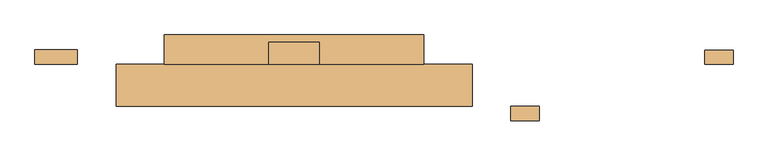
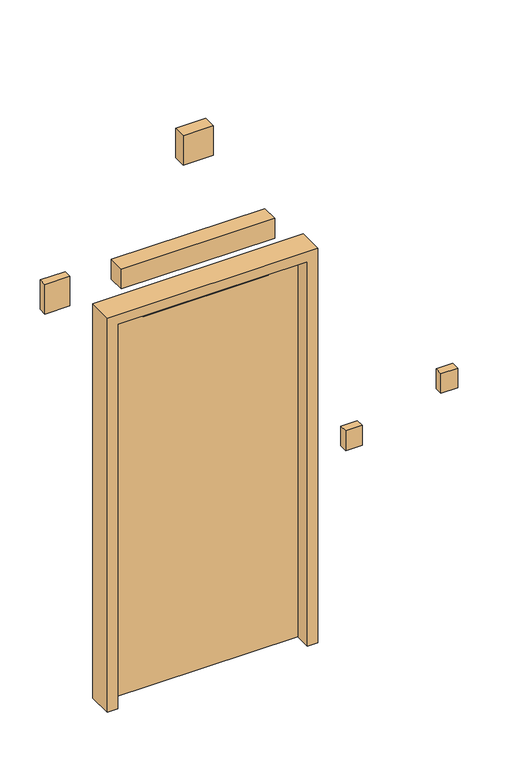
"""IFC4 building model written with IfcOpenShell, lengths in millimetres: door geometry, LOC_Enkeldörr : LOC_Enkeldörr."""

from ifc_helpers import new_model, si_unit, frame, origin, origin_with_axes, place, context, project, spatial, polyline, outline, extrude, source, transform, mapped, element, save


def door_a1db4724(model_context):
    return source(origin(), model_context, "Body", "SweptSolid", [
        extrude(outline(polyline([(300.0, -3.9461432), (-300.0, -3.9461432), (-300.0, 20.0), (300.0, 20.0), (300.0, -3.9461432)])), frame((0.0, 0.0, 1900.0), z_axis=(0.0, 0.0, 1.0), x_axis=(1.0, 0.0, 0.0)), (0.0, 0.0, 1.0), 30.0),
        extrude(outline(polyline([(300.0, 60.0), (-300.0, 60.0), (-300.0, 84.7279155), (300.0, 84.7279155), (300.0, 60.0)])), frame((0.0, 0.0, 1900.0), z_axis=(0.0, 0.0, 1.0), x_axis=(1.0, 0.0, 0.0)), (0.0, 0.0, 1.0), 30.0),
        extrude(outline(polyline([(455.0, 60.0), (455.0, 20.0), (-455.0, 20.0), (-455.0, 60.0), (455.0, 60.0)])), origin_with_axes(), (0.0, 0.0, 1.0), 1950.0),
        extrude(outline(polyline([(71.850514, 60.0), (-71.850514, 60.0), (-71.850514, 122.5679407), (71.850514, 122.5679407), (71.850514, 60.0)])), frame((0.0, 0.0, 2550.0), z_axis=(0.0, 0.0, 1.0), x_axis=(1.0, 0.0, 0.0)), (0.0, 0.0, 1.0), 150.0),
        extrude(outline(polyline([(-615.0, 60.0), (-735.0, 60.0), (-735.0, 100.0), (-615.0, 100.0), (-615.0, 60.0)])), frame((0.0, 0.0, 2026.8339397), z_axis=(0.0, 0.0, 1.0), x_axis=(1.0, 0.0, 0.0)), (0.0, 0.0, 1.0), 150.0),
        extrude(outline(polyline([(695.0, -100.0), (615.0, -100.0), (615.0, -60.0), (695.0, -60.0), (695.0, -100.0)])), frame((0.0, 0.0, 960.0040929), z_axis=(0.0, 0.0, 1.0), x_axis=(1.0, 0.0, 0.0)), (0.0, 0.0, 1.0), 100.0),
        extrude(outline(polyline([(367.845119, 60.0), (-367.845119, 60.0), (-367.845119, 142.679811), (367.845119, 142.679811), (367.845119, 60.0)])), frame((0.0, 0.0, 2026.8339397), z_axis=(0.0, 0.0, 1.0), x_axis=(1.0, 0.0, 0.0)), (0.0, 0.0, 1.0), 100.0),
        extrude(outline(polyline([(1245.0, 60.0), (1165.0, 60.0), (1165.0, 99.7931161), (1245.0, 99.7931161), (1245.0, 60.0)])), frame((0.0, 0.0, 960.0040929), z_axis=(0.0, 0.0, 1.0), x_axis=(1.0, 0.0, 0.0)), (0.0, 0.0, 1.0), 100.0),
        extrude(outline(polyline([(2000.0, 505.0), (2000.0, -505.0), (0.0, -505.0), (0.0, -455.0), (1950.0, -455.0), (1950.0, 455.0), (0.0, 455.0), (0.0, 505.0), (2000.0, 505.0)])), frame((0.0, -60.0, 0.0), z_axis=(0.0, 1.0, 0.0), x_axis=(0.0, 0.0, 1.0)), (0.0, 0.0, 1.0), 120.0),
    ])


if __name__ == "__main__":
    model = new_model("IFC4")
    model_context = context("Model", 3, world=origin())
    ifc_project = project(units=[si_unit("LENGTHUNIT", "METRE", prefix="MILLI")], contexts=[model_context])
    site = spatial("IfcSite", under=ifc_project)
    building = spatial("IfcBuilding", under=site)
    placement = place(None, origin())
    door_shape = door_a1db4724(model_context)
    element("IfcDoor", 1, ObjectType="LOC_Enkeldörr : LOC_Enkeldörr", at=placement, inside=building, context=model_context, shape_type="MappedRepresentation", body=[
        mapped(door_shape, transform((0.0, 0.0, 0.0), x_axis=(1.0, 0.0, 0.0), y_axis=(0.0, 1.0, 0.0), z_axis=(0.0, 0.0, 1.0))),
    ])
    save(model, "model.ifc")
